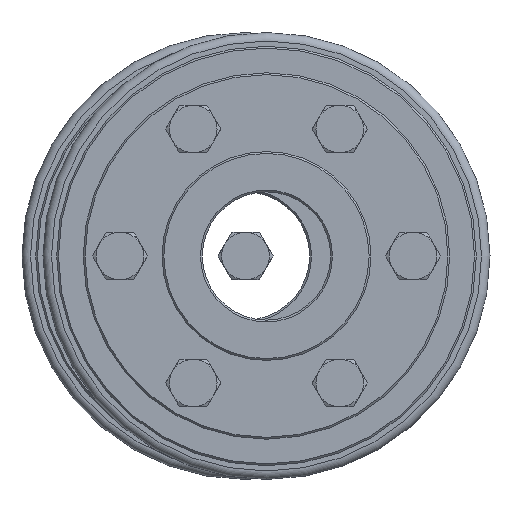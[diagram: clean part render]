
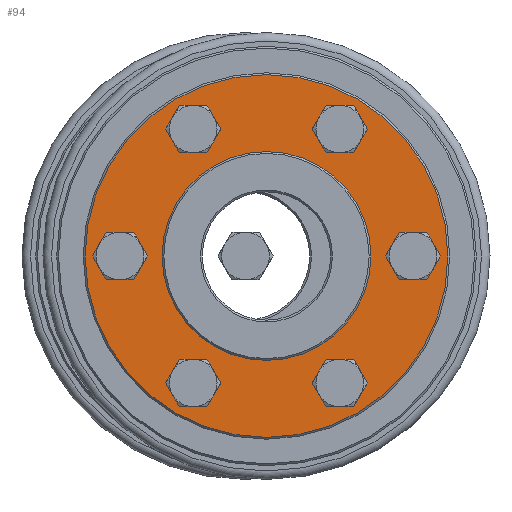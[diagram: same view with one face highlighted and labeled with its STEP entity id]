
A CAD part, left-side view. The second image highlights one B-rep face of the part: STEP entity #94.
In plain terms, the highlighted planar face has unit normal (-1, 0, 0).
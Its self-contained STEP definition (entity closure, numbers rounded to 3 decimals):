
#94 = ADVANCED_FACE( 'NONE', ( #191, #192, #193, #194, #195, #196, #197, #198 ), #199, .F. );
#191 = FACE_OUTER_BOUND( '', #303, .T. );
#192 = FACE_BOUND( '', #304, .T. );
#193 = FACE_BOUND( '', #305, .T. );
#194 = FACE_BOUND( '', #306, .T. );
#195 = FACE_BOUND( '', #307, .T. );
#196 = FACE_BOUND( '', #308, .T. );
#197 = FACE_BOUND( '', #309, .T. );
#198 = FACE_BOUND( '', #310, .T. );
#199 = PLANE( '', #311 );
#303 = EDGE_LOOP( '', ( #508 ) );
#304 = EDGE_LOOP( '', ( #509 ) );
#305 = EDGE_LOOP( '', ( #510 ) );
#306 = EDGE_LOOP( '', ( #511 ) );
#307 = EDGE_LOOP( '', ( #512 ) );
#308 = EDGE_LOOP( '', ( #513 ) );
#309 = EDGE_LOOP( '', ( #514 ) );
#310 = EDGE_LOOP( '', ( #515 ) );
#311 = AXIS2_PLACEMENT_3D( '', #516, #517, #518 );
#508 = ORIENTED_EDGE( '', *, *, #738, .T. );
#509 = ORIENTED_EDGE( '', *, *, #744, .T. );
#510 = ORIENTED_EDGE( '', *, *, #750, .T. );
#511 = ORIENTED_EDGE( '', *, *, #747, .T. );
#512 = ORIENTED_EDGE( '', *, *, #732, .T. );
#513 = ORIENTED_EDGE( '', *, *, #756, .T. );
#514 = ORIENTED_EDGE( '', *, *, #741, .T. );
#515 = ORIENTED_EDGE( '', *, *, #758, .F. );
#516 = CARTESIAN_POINT( '', ( 0., 28.5, 0. ) );
#517 = DIRECTION( '', ( 1., 0., 0. ) );
#518 = DIRECTION( '', ( 0., 1., 0. ) );
#732 = EDGE_CURVE( 'NONE', #974, #974, #975, .T. );
#738 = EDGE_CURVE( 'NONE', #984, #984, #985, .T. );
#741 = EDGE_CURVE( 'NONE', #989, #989, #990, .T. );
#744 = EDGE_CURVE( 'NONE', #994, #994, #995, .T. );
#747 = EDGE_CURVE( 'NONE', #999, #999, #1000, .T. );
#750 = EDGE_CURVE( 'NONE', #1004, #1004, #1005, .T. );
#756 = EDGE_CURVE( 'NONE', #1013, #1013, #1014, .T. );
#758 = EDGE_CURVE( 'NONE', #1016, #1016, #1017, .T. );
#974 = VERTEX_POINT( '', #1421 );
#975 = CIRCLE( '', #1422, 4.5 );
#984 = VERTEX_POINT( '', #1431 );
#985 = CIRCLE( '', #1432, 49.5 );
#989 = VERTEX_POINT( '', #1436 );
#990 = CIRCLE( '', #1437, 4.5 );
#994 = VERTEX_POINT( '', #1441 );
#995 = CIRCLE( '', #1442, 4.5 );
#999 = VERTEX_POINT( '', #1446 );
#1000 = CIRCLE( '', #1447, 4.5 );
#1004 = VERTEX_POINT( '', #1451 );
#1005 = CIRCLE( '', #1452, 4.5 );
#1013 = VERTEX_POINT( '', #1460 );
#1014 = CIRCLE( '', #1461, 4.5 );
#1016 = VERTEX_POINT( '', #1463 );
#1017 = CIRCLE( '', #1464, 28.5 );
#1421 = CARTESIAN_POINT( '', ( 0., -20., -39.141 ) );
#1422 = AXIS2_PLACEMENT_3D( '', #1562, #1563, #1564 );
#1431 = CARTESIAN_POINT( '', ( 0., 0., -49.5 ) );
#1432 = AXIS2_PLACEMENT_3D( '', #1574, #1575, #1576 );
#1436 = CARTESIAN_POINT( '', ( 0., 40., -4.5 ) );
#1437 = AXIS2_PLACEMENT_3D( '', #1580, #1581, #1582 );
#1441 = CARTESIAN_POINT( '', ( 0., 20., 30.141 ) );
#1442 = AXIS2_PLACEMENT_3D( '', #1586, #1587, #1588 );
#1446 = CARTESIAN_POINT( '', ( 0., -40., -4.5 ) );
#1447 = AXIS2_PLACEMENT_3D( '', #1592, #1593, #1594 );
#1451 = CARTESIAN_POINT( '', ( 0., -20., 30.141 ) );
#1452 = AXIS2_PLACEMENT_3D( '', #1598, #1599, #1600 );
#1460 = CARTESIAN_POINT( '', ( 0., 20., -39.141 ) );
#1461 = AXIS2_PLACEMENT_3D( '', #1607, #1608, #1609 );
#1463 = CARTESIAN_POINT( '', ( 0., 0., 28.5 ) );
#1464 = AXIS2_PLACEMENT_3D( '', #1610, #1611, #1612 );
#1562 = CARTESIAN_POINT( '', ( 0., -20., -34.641 ) );
#1563 = DIRECTION( '', ( 1., 0., 0. ) );
#1564 = DIRECTION( '', ( 0., 0., -1. ) );
#1574 = CARTESIAN_POINT( '', ( 0., 0., 0. ) );
#1575 = DIRECTION( '', ( -1., 0., 0. ) );
#1576 = DIRECTION( '', ( 0., 0., -1. ) );
#1580 = CARTESIAN_POINT( '', ( 0., 40., 0. ) );
#1581 = DIRECTION( '', ( 1., 0., 0. ) );
#1582 = DIRECTION( '', ( 0., 0., -1. ) );
#1586 = CARTESIAN_POINT( '', ( 0., 20., 34.641 ) );
#1587 = DIRECTION( '', ( 1., 0., 0. ) );
#1588 = DIRECTION( '', ( 0., 0., -1. ) );
#1592 = CARTESIAN_POINT( '', ( 0., -40., 0. ) );
#1593 = DIRECTION( '', ( 1., 0., 0. ) );
#1594 = DIRECTION( '', ( 0., 0., -1. ) );
#1598 = CARTESIAN_POINT( '', ( 0., -20., 34.641 ) );
#1599 = DIRECTION( '', ( 1., 0., 0. ) );
#1600 = DIRECTION( '', ( 0., 0., -1. ) );
#1607 = CARTESIAN_POINT( '', ( 0., 20., -34.641 ) );
#1608 = DIRECTION( '', ( 1., 0., 0. ) );
#1609 = DIRECTION( '', ( 0., 0., -1. ) );
#1610 = CARTESIAN_POINT( '', ( 0., 0., 0. ) );
#1611 = DIRECTION( '', ( -1., 0., 0. ) );
#1612 = DIRECTION( '', ( 0., 0., 1. ) );
